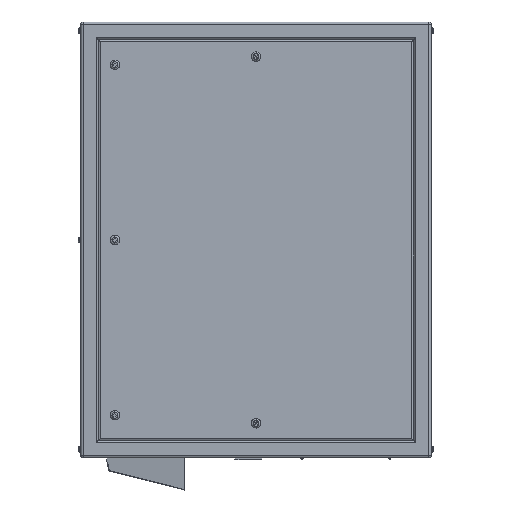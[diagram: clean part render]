
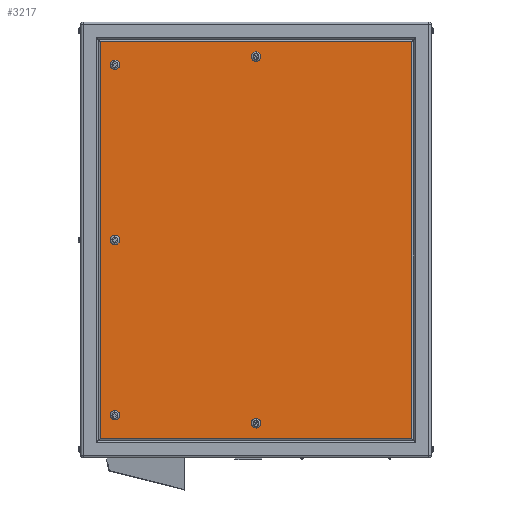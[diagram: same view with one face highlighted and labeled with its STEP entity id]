
A CAD part, left-side view. The second image highlights one B-rep face of the part: STEP entity #3217.
In plain terms, the highlighted planar face has unit normal (-1, 0, 0).
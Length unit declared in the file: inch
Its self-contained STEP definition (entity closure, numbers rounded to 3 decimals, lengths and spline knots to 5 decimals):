
#278 = VERTEX_POINT ( 'NONE', #11034 ) ;
#361 = AXIS2_PLACEMENT_3D ( 'NONE', #5914, #10709, #15863 ) ;
#528 = ORIENTED_EDGE ( 'NONE', *, *, #12809, .T. ) ;
#574 = DIRECTION ( 'NONE',  ( 0., -1., 0. ) ) ;
#587 = AXIS2_PLACEMENT_3D ( 'NONE', #3133, #1299, #18212 ) ;
#741 = CARTESIAN_POINT ( 'NONE',  ( -12.5, 0., -22. ) ) ;
#858 = AXIS2_PLACEMENT_3D ( 'NONE', #4865, #6398, #14762 ) ;
#1030 = CARTESIAN_POINT ( 'NONE',  ( -12.5, 0., 21.45 ) ) ;
#1299 = DIRECTION ( 'NONE',  ( 1., 0., 0. ) ) ;
#1384 = ORIENTED_EDGE ( 'NONE', *, *, #12931, .T. ) ;
#1980 = VECTOR ( 'NONE', #14834, 39.37008 ) ;
#2126 = CARTESIAN_POINT ( 'NONE',  ( -12.5, 16.5, 21.05 ) ) ;
#2156 = CIRCLE ( 'NONE', #13512, 0.55 ) ;
#2290 = EDGE_CURVE ( 'NONE', #11238, #19049, #12255, .T. ) ;
#2308 = VECTOR ( 'NONE', #21656, 39.37008 ) ;
#2570 = CARTESIAN_POINT ( 'NONE',  ( -12.5, 0., -21.45 ) ) ;
#2797 = DIRECTION ( 'NONE',  ( 1., 0., 0. ) ) ;
#2851 = DIRECTION ( 'NONE',  ( 1., 0., 0. ) ) ;
#3018 = CARTESIAN_POINT ( 'NONE',  ( -12.5, 16.5, 0.55 ) ) ;
#3133 = CARTESIAN_POINT ( 'NONE',  ( -12.5, 20.5, -25.5 ) ) ;
#3217 = ADVANCED_FACE ( 'NONE', ( #4506, #21466, #16195, #14284, #13215, #19626 ), #13207, .F. ) ;
#3488 = CIRCLE ( 'NONE', #4076, 0.55 ) ;
#3818 = CARTESIAN_POINT ( 'NONE',  ( -12.5, 0., 21.45 ) ) ;
#3870 = VERTEX_POINT ( 'NONE', #16708 ) ;
#3963 = CARTESIAN_POINT ( 'NONE',  ( -12.5, 16.5, -0.55 ) ) ;
#3989 = EDGE_LOOP ( 'NONE', ( #15046, #12701 ) ) ;
#3991 = VECTOR ( 'NONE', #20102, 39.37008 ) ;
#4073 = VERTEX_POINT ( 'NONE', #7265 ) ;
#4076 = AXIS2_PLACEMENT_3D ( 'NONE', #2570, #2851, #21410 ) ;
#4110 = EDGE_CURVE ( 'NONE', #6055, #7319, #21396, .T. ) ;
#4286 = EDGE_LOOP ( 'NONE', ( #5383, #15852 ) ) ;
#4506 = FACE_BOUND ( 'NONE', #17280, .T. ) ;
#4723 = CIRCLE ( 'NONE', #8660, 0.55 ) ;
#4865 = CARTESIAN_POINT ( 'NONE',  ( -12.5, 16.5, 0. ) ) ;
#5037 = DIRECTION ( 'NONE',  ( 0., 0., 1. ) ) ;
#5356 = EDGE_LOOP ( 'NONE', ( #18098, #5580 ) ) ;
#5383 = ORIENTED_EDGE ( 'NONE', *, *, #7593, .T. ) ;
#5580 = ORIENTED_EDGE ( 'NONE', *, *, #10998, .T. ) ;
#5914 = CARTESIAN_POINT ( 'NONE',  ( -12.5, 16.5, 20.5 ) ) ;
#5946 = AXIS2_PLACEMENT_3D ( 'NONE', #3818, #15666, #20699 ) ;
#6055 = VERTEX_POINT ( 'NONE', #14951 ) ;
#6261 = EDGE_CURVE ( 'NONE', #278, #11459, #2156, .T. ) ;
#6398 = DIRECTION ( 'NONE',  ( 1., 0., 0. ) ) ;
#6493 = CARTESIAN_POINT ( 'NONE',  ( -12.5, 18.24, -23.24 ) ) ;
#6778 = VERTEX_POINT ( 'NONE', #19566 ) ;
#6900 = VERTEX_POINT ( 'NONE', #6493 ) ;
#7201 = LINE ( 'NONE', #11552, #1980 ) ;
#7265 = CARTESIAN_POINT ( 'NONE',  ( -12.5, 0., -20.9 ) ) ;
#7319 = VERTEX_POINT ( 'NONE', #13234 ) ;
#7593 = EDGE_CURVE ( 'NONE', #18569, #12176, #21584, .T. ) ;
#7638 = EDGE_LOOP ( 'NONE', ( #8871, #19542 ) ) ;
#8092 = CIRCLE ( 'NONE', #361, 0.55 ) ;
#8555 = AXIS2_PLACEMENT_3D ( 'NONE', #15180, #11960, #5037 ) ;
#8660 = AXIS2_PLACEMENT_3D ( 'NONE', #1030, #2797, #19797 ) ;
#8776 = EDGE_CURVE ( 'NONE', #13420, #6778, #20835, .T. ) ;
#8871 = ORIENTED_EDGE ( 'NONE', *, *, #2290, .T. ) ;
#8900 = ORIENTED_EDGE ( 'NONE', *, *, #9590, .T. ) ;
#9067 = CARTESIAN_POINT ( 'NONE',  ( -12.5, 16.5, 19.95 ) ) ;
#9304 = EDGE_CURVE ( 'NONE', #11459, #278, #16794, .T. ) ;
#9434 = AXIS2_PLACEMENT_3D ( 'NONE', #20738, #12117, #17554 ) ;
#9590 = EDGE_CURVE ( 'NONE', #3870, #13420, #7201, .T. ) ;
#9808 = CARTESIAN_POINT ( 'NONE',  ( -12.5, 16.5, 20.5 ) ) ;
#9927 = DIRECTION ( 'NONE',  ( 0., 0., -1. ) ) ;
#9973 = ORIENTED_EDGE ( 'NONE', *, *, #18978, .T. ) ;
#10306 = LINE ( 'NONE', #17258, #18821 ) ;
#10709 = DIRECTION ( 'NONE',  ( 1., 0., 0. ) ) ;
#10826 = DIRECTION ( 'NONE',  ( 1., 0., 0. ) ) ;
#10900 = VERTEX_POINT ( 'NONE', #741 ) ;
#10998 = EDGE_CURVE ( 'NONE', #7319, #6055, #4723, .T. ) ;
#11034 = CARTESIAN_POINT ( 'NONE',  ( -12.5, 16.5, -21.05 ) ) ;
#11105 = CIRCLE ( 'NONE', #8555, 0.55 ) ;
#11238 = VERTEX_POINT ( 'NONE', #9067 ) ;
#11459 = VERTEX_POINT ( 'NONE', #17851 ) ;
#11552 = CARTESIAN_POINT ( 'NONE',  ( -12.5, -18.24, -25.5 ) ) ;
#11631 = ORIENTED_EDGE ( 'NONE', *, *, #13557, .T. ) ;
#11859 = CARTESIAN_POINT ( 'NONE',  ( -12.5, 18.24, -25.5 ) ) ;
#11960 = DIRECTION ( 'NONE',  ( 1., 0., 0. ) ) ;
#12117 = DIRECTION ( 'NONE',  ( 1., 0., 0. ) ) ;
#12173 = DIRECTION ( 'NONE',  ( 1., 0., 0. ) ) ;
#12176 = VERTEX_POINT ( 'NONE', #3018 ) ;
#12255 = CIRCLE ( 'NONE', #19101, 0.55 ) ;
#12684 = EDGE_LOOP ( 'NONE', ( #11631, #8900, #14700, #9973 ) ) ;
#12701 = ORIENTED_EDGE ( 'NONE', *, *, #9304, .T. ) ;
#12809 = EDGE_CURVE ( 'NONE', #4073, #10900, #3488, .T. ) ;
#12891 = AXIS2_PLACEMENT_3D ( 'NONE', #14223, #10826, #20780 ) ;
#12931 = EDGE_CURVE ( 'NONE', #10900, #4073, #11105, .T. ) ;
#13207 = PLANE ( 'NONE',  #587 ) ;
#13215 = FACE_BOUND ( 'NONE', #7638, .T. ) ;
#13234 = CARTESIAN_POINT ( 'NONE',  ( -12.5, 0., 22. ) ) ;
#13420 = VERTEX_POINT ( 'NONE', #16549 ) ;
#13512 = AXIS2_PLACEMENT_3D ( 'NONE', #13782, #12173, #15530 ) ;
#13557 = EDGE_CURVE ( 'NONE', #6900, #3870, #10306, .T. ) ;
#13724 = LINE ( 'NONE', #11859, #3991 ) ;
#13782 = CARTESIAN_POINT ( 'NONE',  ( -12.5, 16.5, -20.5 ) ) ;
#14143 = CIRCLE ( 'NONE', #858, 0.55 ) ;
#14223 = CARTESIAN_POINT ( 'NONE',  ( -12.5, 16.5, -20.5 ) ) ;
#14284 = FACE_BOUND ( 'NONE', #4286, .T. ) ;
#14700 = ORIENTED_EDGE ( 'NONE', *, *, #8776, .T. ) ;
#14706 = EDGE_CURVE ( 'NONE', #12176, #18569, #14143, .T. ) ;
#14762 = DIRECTION ( 'NONE',  ( 0., 0., -1. ) ) ;
#14834 = DIRECTION ( 'NONE',  ( 0., 0., 1. ) ) ;
#14951 = CARTESIAN_POINT ( 'NONE',  ( -12.5, 0., 20.9 ) ) ;
#15046 = ORIENTED_EDGE ( 'NONE', *, *, #6261, .T. ) ;
#15180 = CARTESIAN_POINT ( 'NONE',  ( -12.5, 0., -21.45 ) ) ;
#15530 = DIRECTION ( 'NONE',  ( 0., 0., -1. ) ) ;
#15666 = DIRECTION ( 'NONE',  ( 1., 0., 0. ) ) ;
#15852 = ORIENTED_EDGE ( 'NONE', *, *, #14706, .T. ) ;
#15863 = DIRECTION ( 'NONE',  ( 0., 0., -1. ) ) ;
#16195 = FACE_BOUND ( 'NONE', #3989, .T. ) ;
#16269 = CARTESIAN_POINT ( 'NONE',  ( -12.5, 20.5, 23.24 ) ) ;
#16549 = CARTESIAN_POINT ( 'NONE',  ( -12.5, -18.24, 23.24 ) ) ;
#16708 = CARTESIAN_POINT ( 'NONE',  ( -12.5, -18.24, -23.24 ) ) ;
#16794 = CIRCLE ( 'NONE', #12891, 0.55 ) ;
#17258 = CARTESIAN_POINT ( 'NONE',  ( -12.5, 20.5, -23.24 ) ) ;
#17280 = EDGE_LOOP ( 'NONE', ( #1384, #528 ) ) ;
#17554 = DIRECTION ( 'NONE',  ( 0., 0., -1. ) ) ;
#17851 = CARTESIAN_POINT ( 'NONE',  ( -12.5, 16.5, -19.95 ) ) ;
#18098 = ORIENTED_EDGE ( 'NONE', *, *, #4110, .T. ) ;
#18164 = EDGE_CURVE ( 'NONE', #19049, #11238, #8092, .T. ) ;
#18212 = DIRECTION ( 'NONE',  ( 0., 0., -1. ) ) ;
#18254 = DIRECTION ( 'NONE',  ( 1., 0., 0. ) ) ;
#18569 = VERTEX_POINT ( 'NONE', #3963 ) ;
#18821 = VECTOR ( 'NONE', #574, 39.37008 ) ;
#18978 = EDGE_CURVE ( 'NONE', #6778, #6900, #13724, .T. ) ;
#19049 = VERTEX_POINT ( 'NONE', #2126 ) ;
#19101 = AXIS2_PLACEMENT_3D ( 'NONE', #9808, #18254, #9927 ) ;
#19542 = ORIENTED_EDGE ( 'NONE', *, *, #18164, .T. ) ;
#19566 = CARTESIAN_POINT ( 'NONE',  ( -12.5, 18.24, 23.24 ) ) ;
#19626 = FACE_OUTER_BOUND ( 'NONE', #12684, .T. ) ;
#19797 = DIRECTION ( 'NONE',  ( 0., 0., -1. ) ) ;
#20102 = DIRECTION ( 'NONE',  ( 0., 0., -1. ) ) ;
#20699 = DIRECTION ( 'NONE',  ( 0., 0., -1. ) ) ;
#20738 = CARTESIAN_POINT ( 'NONE',  ( -12.5, 16.5, 0. ) ) ;
#20780 = DIRECTION ( 'NONE',  ( 0., 0., -1. ) ) ;
#20835 = LINE ( 'NONE', #16269, #2308 ) ;
#21396 = CIRCLE ( 'NONE', #5946, 0.55 ) ;
#21410 = DIRECTION ( 'NONE',  ( 0., 0., 1. ) ) ;
#21466 = FACE_BOUND ( 'NONE', #5356, .T. ) ;
#21584 = CIRCLE ( 'NONE', #9434, 0.55 ) ;
#21656 = DIRECTION ( 'NONE',  ( 0., 1., 0. ) ) ;
